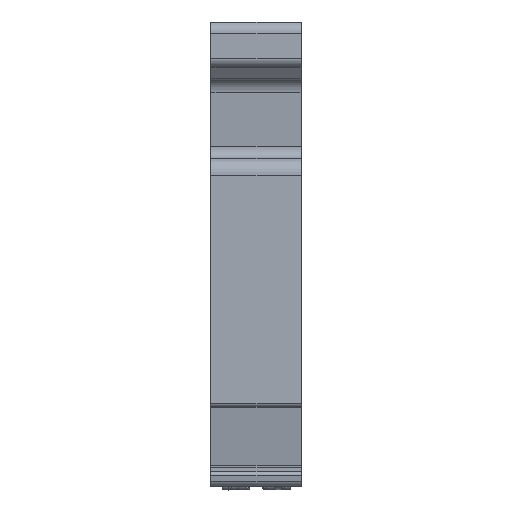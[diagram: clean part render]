
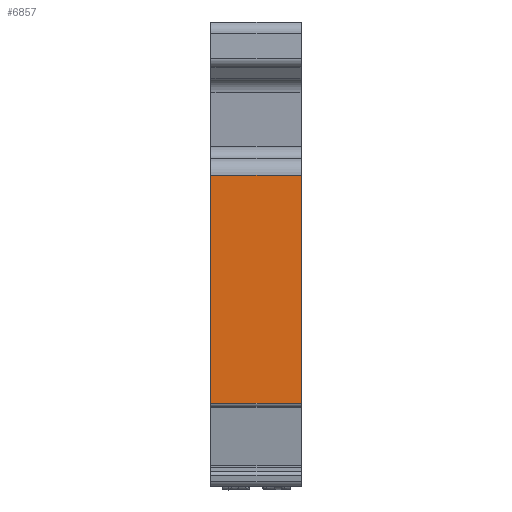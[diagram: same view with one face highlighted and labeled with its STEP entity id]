
A CAD part, left-side view. The second image highlights one B-rep face of the part: STEP entity #6857.
In plain terms, the highlighted planar face has unit normal (-1, 0, 0).
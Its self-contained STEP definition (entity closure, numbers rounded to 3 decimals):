
#549=DIRECTION('',(0.,1.,0.));
#550=VECTOR('',#549,8.15);
#551=CARTESIAN_POINT('',(-16.2,0.05,-34.503));
#552=LINE('',#551,#550);
#553=DIRECTION('',(0.,0.,1.));
#554=VECTOR('',#553,20.653);
#555=CARTESIAN_POINT('',(-16.2,8.2,-34.503));
#556=LINE('',#555,#554);
#557=DIRECTION('',(0.,1.,0.));
#558=VECTOR('',#557,8.15);
#559=CARTESIAN_POINT('',(-16.2,0.05,-13.85));
#560=LINE('',#559,#558);
#561=DIRECTION('',(0.,0.,-1.));
#562=VECTOR('',#561,20.653);
#563=CARTESIAN_POINT('',(-16.2,0.05,-13.85));
#564=LINE('',#563,#562);
#6357=CARTESIAN_POINT('',(-16.2,8.2,
-13.85));
#6359=VERTEX_POINT('',#6357);
#6363=CARTESIAN_POINT('',(-16.2,0.05,-13.85));
#6364=VERTEX_POINT('',#6363);
#6366=CARTESIAN_POINT('',(-16.2,8.2,
-34.503));
#6368=VERTEX_POINT('',#6366);
#6369=CARTESIAN_POINT('',(-16.2,0.05,-34.503));
#6370=VERTEX_POINT('',#6369);
#6844=CARTESIAN_POINT('',(-16.2,4.125,
-24.152));
#6845=DIRECTION('',(1.,0.,0.));
#6846=DIRECTION('',(0.,0.,-1.));
#6847=AXIS2_PLACEMENT_3D('',#6844,#6845,#6846);
#6848=PLANE('',#6847);
#6849=ORIENTED_EDGE('',*,*,#6835,.T.);
#6850=ORIENTED_EDGE('',*,*,#6824,.T.);
#6852=ORIENTED_EDGE('',*,*,#6851,.F.);
#6854=ORIENTED_EDGE('',*,*,#6853,.T.);
#6855=EDGE_LOOP('',(#6849,#6850,#6852,#6854));
#6856=FACE_OUTER_BOUND('',#6855,.F.);
#6857=ADVANCED_FACE('',(#6856),#6848,.F.);
#6824=EDGE_CURVE('',#6368,#6359,#556,.T.);
#6835=EDGE_CURVE('',#6370,#6368,#552,.T.);
#6851=EDGE_CURVE('',#6364,#6359,#560,.T.);
#6853=EDGE_CURVE('',#6364,#6370,#564,.T.);
